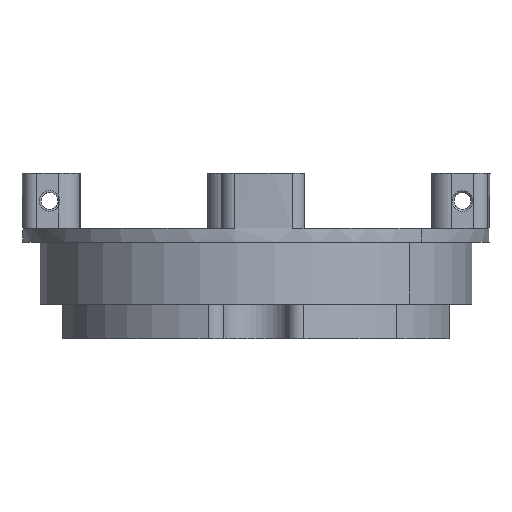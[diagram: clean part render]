
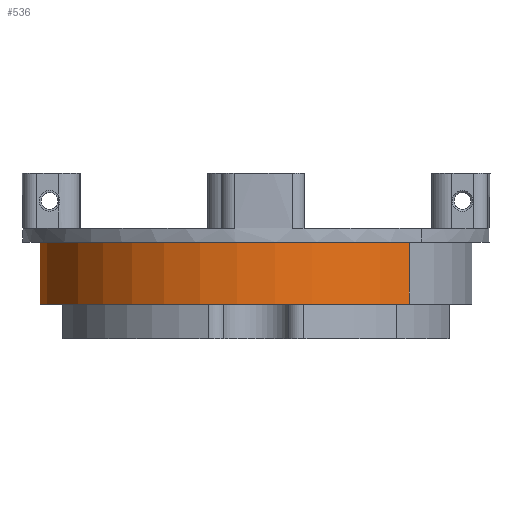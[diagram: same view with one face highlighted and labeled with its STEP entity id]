
A CAD part, front view. The second image highlights one B-rep face of the part: STEP entity #536.
In plain terms, the highlighted cylindrical face has radius 31.5 mm (diameter 63 mm), a partial arc.
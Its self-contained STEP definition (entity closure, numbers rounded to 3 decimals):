
#536=ADVANCED_FACE('',(#832),#2928,.T.);
#832=FACE_OUTER_BOUND('',#1128,.F.);
#1128=EDGE_LOOP('',(#1475,#1476,#1477,#1478));
#1475=ORIENTED_EDGE('',*,*,#5741,.T.);
#1476=ORIENTED_EDGE('',*,*,#5743,.T.);
#1477=ORIENTED_EDGE('',*,*,#5742,.F.);
#1478=ORIENTED_EDGE('',*,*,#5745,.F.);
#2928=CYLINDRICAL_SURFACE('',#7471,31.5);
#5104=LINE('',#10015,#5386);
#5105=LINE('',#10016,#5387);
#5386=VECTOR('',#8031,9.);
#5387=VECTOR('',#8032,9.);
#5741=EDGE_CURVE('',#6941,#6942,#5104,.T.);
#5742=EDGE_CURVE('',#6940,#6943,#5105,.T.);
#5743=EDGE_CURVE('',#6942,#6943,#6437,.T.);
#5745=EDGE_CURVE('',#6941,#6940,#6439,.T.);
#6437=CIRCLE('',#7265,31.5);
#6439=CIRCLE('',#7267,31.5);
#6940=VERTEX_POINT('',#9714);
#6941=VERTEX_POINT('',#9715);
#6942=VERTEX_POINT('',#9716);
#6943=VERTEX_POINT('',#9717);
#7265=AXIS2_PLACEMENT_3D('',#10017,#8033,#8034);
#7267=AXIS2_PLACEMENT_3D('',#10019,#8037,#8038);
#7471=AXIS2_PLACEMENT_3D('',#10723,#8621,#8622);
#8031=DIRECTION('',(0.,0.,-1.));
#8032=DIRECTION('',(0.,0.,-1.));
#8033=DIRECTION('',(0.,0.,-1.));
#8034=DIRECTION('',(0.707,-0.707,0.));
#8037=DIRECTION('',(0.,0.,-1.));
#8038=DIRECTION('',(0.707,-0.707,0.));
#8621=DIRECTION('',(0.,0.,1.));
#8622=DIRECTION('',(-0.707,0.707,0.));
#9714=CARTESIAN_POINT('',(262.101,441.526,-354.626));
#9715=CARTESIAN_POINT('',(306.649,396.978,-354.626));
#9716=CARTESIAN_POINT('',(306.649,396.978,-363.626));
#9717=CARTESIAN_POINT('',(262.101,441.526,-363.626));
#10015=CARTESIAN_POINT('',(306.649,396.978,-354.626));
#10016=CARTESIAN_POINT('',(262.101,441.526,-354.626));
#10017=CARTESIAN_POINT('',(284.375,419.252,-363.626));
#10019=CARTESIAN_POINT('',(284.375,419.252,-354.626));
#10723=CARTESIAN_POINT('',(284.375,419.252,-354.626));
